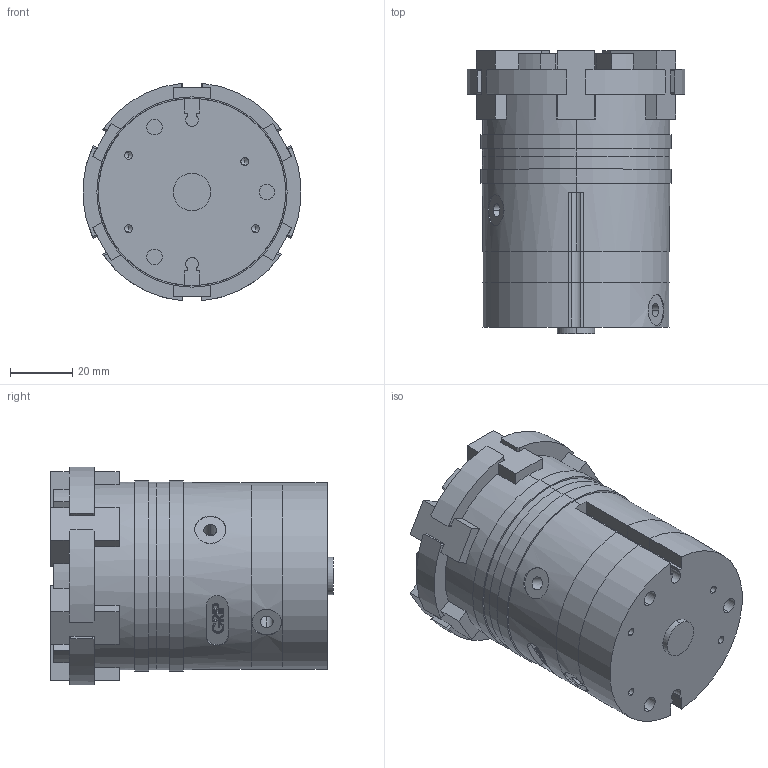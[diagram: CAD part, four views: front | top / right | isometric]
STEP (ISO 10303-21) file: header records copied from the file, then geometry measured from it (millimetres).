
FILE_DESCRIPTION (( 'STEP AP203' ), '1' );
FILE_NAME ('PM06_CL.STEP', '2018-03-09T08:19:39', ( '' ), ( '' ), 'SwSTEP 2.0', 'SolidWorks 2018', '' );
FILE_SCHEMA (( 'CONFIG_CONTROL_DESIGN' ));
Length unit declared in the file: millimetre
Products named in the file (3): carro; Corpo_Default<A macchina>; PM06_CL
Assembly tree (7 placements, depth 2):
  PM06_CL
    Corpo_Default<A macchina>
    carro  x6
Bounding box: 69.77 x 90.7 x 69.74 mm (x, y, z)
Volume: 243031.8 mm3; surface area: 90291.8 mm2
Topology: 21 solids, 21 shells, 650 faces, 1655 edges, 1042 vertices
Faces by surface type: plane 355, cylinder 205, cone 70, bspline 20
Entity records: 15719 total; most frequent: CARTESIAN_POINT 4231, DIRECTION 2287, ORIENTED_EDGE 2258, EDGE_CURVE 1129, AXIS2_PLACEMENT_3D 786, VERTEX_POINT 742, VECTOR 715, LINE 715
